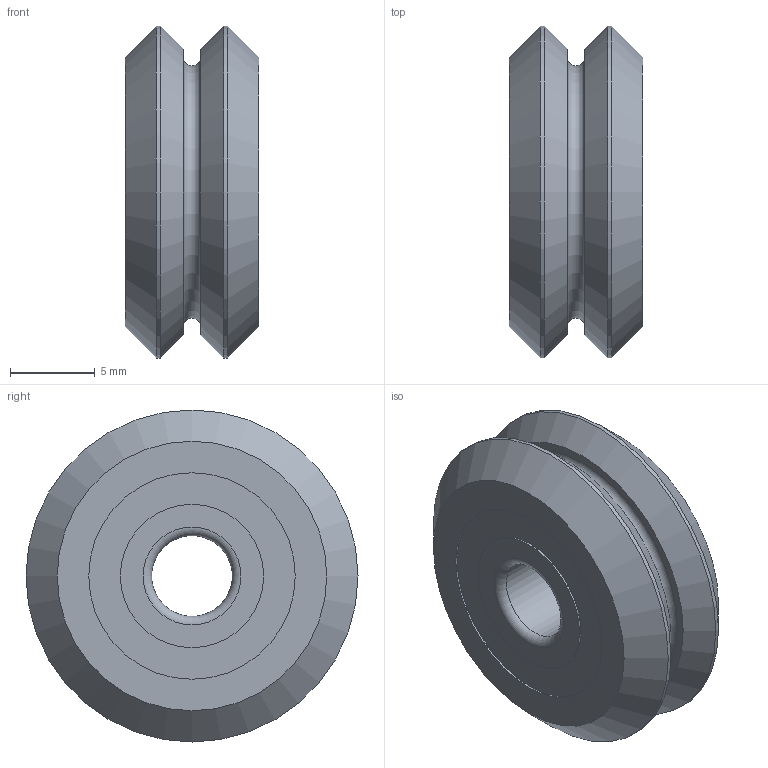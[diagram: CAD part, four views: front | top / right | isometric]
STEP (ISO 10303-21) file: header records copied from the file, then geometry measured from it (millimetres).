
FILE_DESCRIPTION( ( 'STEP AP214' ), '1' );
FILE_NAME( 'p:/temp/worker_32/temp/app_41_02019012316230978353926192d056f_000000_00_00_000000/format_0/W1X.stp', '2019-01-23T15:23:10', ( '' ), ( '' ), ' ', 'PARTsolutions', ' ' );
FILE_SCHEMA( ( 'AUTOMOTIVE_DESIGN { 1 0 10303 214 1 1 1 1 }' ) );
Length unit declared in the file: inch
Products named in the file (1): _W1X
Bounding box: 7.87 x 19.58 x 19.58 mm (x, y, z)
Volume: 1772.5 mm3; surface area: 1197 mm2
Topology: 1 solids, 1 shells, 30 faces, 48 edges, 30 vertices
Faces by surface type: plane 12, cylinder 11, cone 4, torus 3
Full cylindrical faces by diameter (mm): 4.762 x1, 8.23 x2, 8.458 x2, 12.179 x2, 12.408 x2, 19.583 x2
Entity records: 864 total; most frequent: DIRECTION 122, CARTESIAN_POINT 91, AXIS2_PLACEMENT_3D 61, EDGE_LOOP 60, ORIENTED_EDGE 60, FACE_OUTER_BOUND 44, STYLED_ITEM 30, PRESENTATION_STYLE_ASSIGNMENT 30
